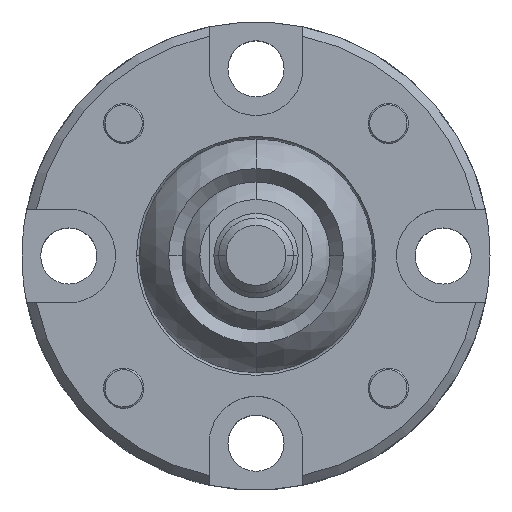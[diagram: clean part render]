
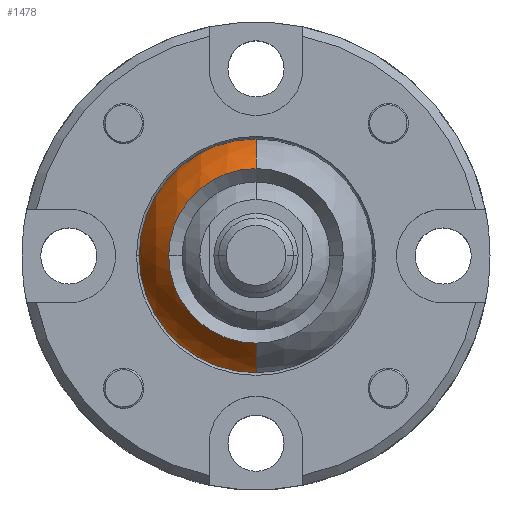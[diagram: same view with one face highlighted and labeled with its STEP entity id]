
A CAD part, top view. The second image highlights one B-rep face of the part: STEP entity #1478.
In plain terms, the highlighted spherical face has radius 6.8 mm.
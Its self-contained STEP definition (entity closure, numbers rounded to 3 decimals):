
#216 = CARTESIAN_POINT ( 'NONE',  ( 0., 0., 0. ) ) ;
#241 = DIRECTION ( 'NONE',  ( 0., 1., 0. ) ) ;
#374 = CARTESIAN_POINT ( 'NONE',  ( 0., 0., 0. ) ) ;
#603 = CARTESIAN_POINT ( 'NONE',  ( 0., 0., 4.95 ) ) ;
#624 = VERTEX_POINT ( 'NONE', #3274 ) ;
#981 = CARTESIAN_POINT ( 'NONE',  ( -4.662, 0., -4.95 ) ) ;
#1118 = CARTESIAN_POINT ( 'NONE',  ( -4.662, 0., 4.95 ) ) ;
#1151 = EDGE_CURVE ( 'NONE', #4653, #2920, #2413, .T. ) ;
#1185 = CARTESIAN_POINT ( 'NONE',  ( 0., 4.662, -4.95 ) ) ;
#1332 = DIRECTION ( 'NONE',  ( -1., 0., 0. ) ) ;
#1478 = ADVANCED_FACE ( 'NONE', ( #4868 ), #5264, .T. ) ;
#1497 = EDGE_LOOP ( 'NONE', ( #1809, #3875, #1580, #3477, #2447, #4863 ) ) ;
#1530 = CARTESIAN_POINT ( 'NONE',  ( 0., 0., 0. ) ) ;
#1580 = ORIENTED_EDGE ( 'NONE', *, *, #5324, .T. ) ;
#1622 = CIRCLE ( 'NONE', #2569, 4.662 ) ;
#1687 = VERTEX_POINT ( 'NONE', #1185 ) ;
#1809 = ORIENTED_EDGE ( 'NONE', *, *, #6467, .T. ) ;
#1856 = EDGE_CURVE ( 'NONE', #4347, #624, #6076, .T. ) ;
#1939 = CIRCLE ( 'NONE', #5639, 6.8 ) ;
#2093 = AXIS2_PLACEMENT_3D ( 'NONE', #374, #1332, #241 ) ;
#2120 = DIRECTION ( 'NONE',  ( 0., 0., 1. ) ) ;
#2166 = CIRCLE ( 'NONE', #3005, 6.8 ) ;
#2208 = EDGE_CURVE ( 'NONE', #1687, #5495, #2166, .T. ) ;
#2224 = DIRECTION ( 'NONE',  ( -1., 0., 0. ) ) ;
#2413 = CIRCLE ( 'NONE', #3468, 4.662 ) ;
#2437 = CARTESIAN_POINT ( 'NONE',  ( 0., 0., -4.95 ) ) ;
#2447 = ORIENTED_EDGE ( 'NONE', *, *, #6372, .F. ) ;
#2569 = AXIS2_PLACEMENT_3D ( 'NONE', #5094, #2120, #6200 ) ;
#2780 = CARTESIAN_POINT ( 'NONE',  ( 0., -4.662, -4.95 ) ) ;
#2920 = VERTEX_POINT ( 'NONE', #2780 ) ;
#3005 = AXIS2_PLACEMENT_3D ( 'NONE', #1530, #4426, #5574 ) ;
#3012 = CARTESIAN_POINT ( 'NONE',  ( 0., 4.662, 4.95 ) ) ;
#3084 = DIRECTION ( 'NONE',  ( 0., 0., 1. ) ) ;
#3218 = AXIS2_PLACEMENT_3D ( 'NONE', #3244, #5256, #5826 ) ;
#3244 = CARTESIAN_POINT ( 'NONE',  ( 0., 0., 4.95 ) ) ;
#3274 = CARTESIAN_POINT ( 'NONE',  ( 0., -4.662, 4.95 ) ) ;
#3468 = AXIS2_PLACEMENT_3D ( 'NONE', #2437, #4917, #4429 ) ;
#3477 = ORIENTED_EDGE ( 'NONE', *, *, #1856, .F. ) ;
#3641 = DIRECTION ( 'NONE',  ( 0., 0., 1. ) ) ;
#3875 = ORIENTED_EDGE ( 'NONE', *, *, #1151, .T. ) ;
#4347 = VERTEX_POINT ( 'NONE', #1118 ) ;
#4426 = DIRECTION ( 'NONE',  ( 1., 0., 0. ) ) ;
#4429 = DIRECTION ( 'NONE',  ( 1., 0., 0. ) ) ;
#4653 = VERTEX_POINT ( 'NONE', #981 ) ;
#4689 = CIRCLE ( 'NONE', #6383, 4.662 ) ;
#4863 = ORIENTED_EDGE ( 'NONE', *, *, #2208, .F. ) ;
#4868 = FACE_OUTER_BOUND ( 'NONE', #1497, .T. ) ;
#4917 = DIRECTION ( 'NONE',  ( 0., 0., 1. ) ) ;
#5094 = CARTESIAN_POINT ( 'NONE',  ( 0., 0., -4.95 ) ) ;
#5196 = DIRECTION ( 'NONE',  ( 1., 0., 0. ) ) ;
#5256 = DIRECTION ( 'NONE',  ( 0., 0., 1. ) ) ;
#5264 = SPHERICAL_SURFACE ( 'NONE', #2093, 6.8 ) ;
#5324 = EDGE_CURVE ( 'NONE', #2920, #624, #1939, .T. ) ;
#5495 = VERTEX_POINT ( 'NONE', #3012 ) ;
#5574 = DIRECTION ( 'NONE',  ( 0., 0., -1. ) ) ;
#5639 = AXIS2_PLACEMENT_3D ( 'NONE', #216, #2224, #3084 ) ;
#5826 = DIRECTION ( 'NONE',  ( 1., 0., 0. ) ) ;
#6076 = CIRCLE ( 'NONE', #3218, 4.662 ) ;
#6200 = DIRECTION ( 'NONE',  ( 1., 0., 0. ) ) ;
#6372 = EDGE_CURVE ( 'NONE', #5495, #4347, #4689, .T. ) ;
#6383 = AXIS2_PLACEMENT_3D ( 'NONE', #603, #3641, #5196 ) ;
#6467 = EDGE_CURVE ( 'NONE', #1687, #4653, #1622, .T. ) ;
